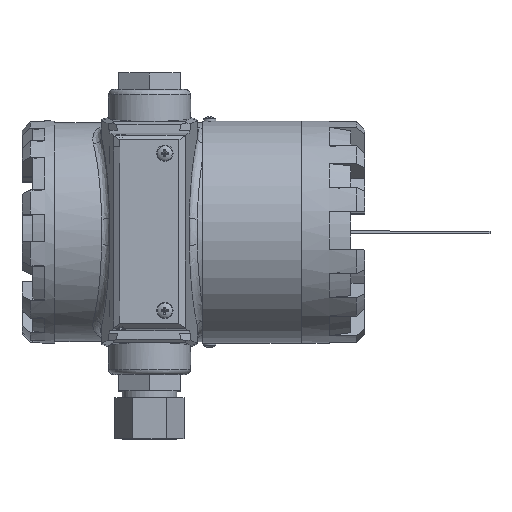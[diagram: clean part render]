
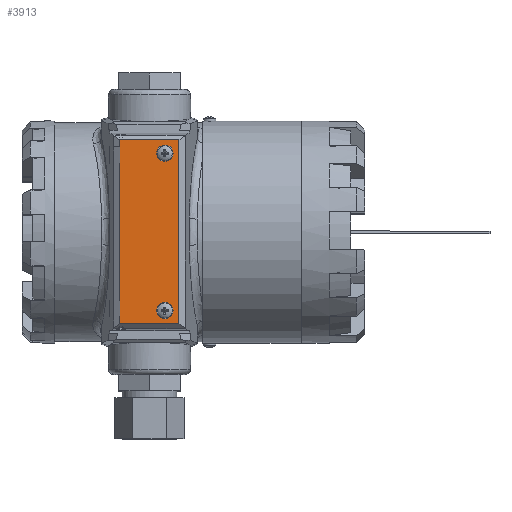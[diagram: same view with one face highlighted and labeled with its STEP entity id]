
A CAD part, top view. The second image highlights one B-rep face of the part: STEP entity #3913.
In plain terms, the highlighted planar face has unit normal (0, 0, 1).
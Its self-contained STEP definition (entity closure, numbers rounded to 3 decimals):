
#3913=ADVANCED_FACE('',(#11969,#11971,#11973),#11975,.T.);
#11969=FACE_BOUND('',#11970,.T.);
#11970=EDGE_LOOP('',(#19853,#19854,#19855,#19856,#19857,#19858,#19859,#19860,#19861,
#19862,#19863,#19864));
#11971=FACE_BOUND('',#11972,.T.);
#11972=EDGE_LOOP('',(#19865));
#11973=FACE_BOUND('',#11974,.T.);
#11974=EDGE_LOOP('',(#19866));
#11975=PLANE('',#11976);
#11976=AXIS2_PLACEMENT_3D('',#11977,#11978,#11979);
#11977=CARTESIAN_POINT('',(0.,0.,130.182));
#11978=DIRECTION('',(0.,0.,1.));
#11979=DIRECTION('',(-1.,0.,0.));
#19853=ORIENTED_EDGE('',*,*,#23496,.T.);
#19854=ORIENTED_EDGE('',*,*,#23846,.T.);
#19855=ORIENTED_EDGE('',*,*,#23493,.F.);
#19856=ORIENTED_EDGE('',*,*,#23847,.T.);
#19857=ORIENTED_EDGE('',*,*,#23490,.T.);
#19858=ORIENTED_EDGE('',*,*,#23848,.T.);
#19859=ORIENTED_EDGE('',*,*,#23487,.F.);
#19860=ORIENTED_EDGE('',*,*,#23480,.T.);
#19861=ORIENTED_EDGE('',*,*,#23823,.T.);
#19862=ORIENTED_EDGE('',*,*,#23500,.T.);
#19863=ORIENTED_EDGE('',*,*,#23498,.F.);
#19864=ORIENTED_EDGE('',*,*,#23849,.T.);
#19865=ORIENTED_EDGE('',*,*,#23850,.T.);
#19866=ORIENTED_EDGE('',*,*,#23851,.T.);
#23480=EDGE_CURVE('',#26635,#26636,#26637,.F.);
#23487=EDGE_CURVE('',#26635,#26645,#26647,.T.);
#23490=EDGE_CURVE('',#26648,#26650,#26652,.F.);
#23493=EDGE_CURVE('',#26655,#26653,#26657,.T.);
#23496=EDGE_CURVE('',#26658,#26660,#26662,.F.);
#23498=EDGE_CURVE('',#26663,#26665,#26666,.T.);
#23500=EDGE_CURVE('',#26668,#26665,#26669,.F.);
#23823=EDGE_CURVE('',#26636,#26668,#27164,.T.);
#23846=EDGE_CURVE('',#26660,#26653,#27198,.T.);
#23847=EDGE_CURVE('',#26655,#26648,#27199,.T.);
#23848=EDGE_CURVE('',#26650,#26645,#27200,.T.);
#23849=EDGE_CURVE('',#26663,#26658,#27201,.T.);
#23850=EDGE_CURVE('',#27202,#27202,#27203,.F.);
#23851=EDGE_CURVE('',#27204,#27204,#27205,.F.);
#26635=VERTEX_POINT('',#37902);
#26636=VERTEX_POINT('',#37903);
#26637=LINE('',#37904,#37905);
#26645=VERTEX_POINT('',#37926);
#26647=LINE('',#37930,#37931);
#26648=VERTEX_POINT('',#37933);
#26650=VERTEX_POINT('',#37937);
#26652=LINE('',#37941,#37942);
#26653=VERTEX_POINT('',#37944);
#26655=VERTEX_POINT('',#37948);
#26657=LINE('',#37952,#37953);
#26658=VERTEX_POINT('',#37955);
#26660=VERTEX_POINT('',#37959);
#26662=LINE('',#37963,#37964);
#26663=VERTEX_POINT('',#37966);
#26665=VERTEX_POINT('',#37970);
#26666=LINE('',#37971,#37972);
#26668=VERTEX_POINT('',#37977);
#26669=LINE('',#37978,#37979);
#27164=LINE('',#39491,#39492);
#27198=LINE('',#39653,#39654);
#27199=LINE('',#39656,#39657);
#27200=LINE('',#39659,#39660);
#27201=LINE('',#39662,#39663);
#27202=VERTEX_POINT('',#39665);
#27203=CIRCLE('',#39666,3.);
#27204=VERTEX_POINT('',#39670);
#27205=CIRCLE('',#39671,3.);
#37902=CARTESIAN_POINT('',(-21.267,-33.589,130.182));
#37903=CARTESIAN_POINT('',(0.267,-33.589,130.182));
#37904=CARTESIAN_POINT('',(0.267,-33.589,130.182));
#37905=VECTOR('',#37906,1.);
#37906=DIRECTION('',(-1.,0.,0.));
#37926=CARTESIAN_POINT('',(-21.267,-31.,130.182));
#37930=CARTESIAN_POINT('',(-21.267,-33.589,130.182));
#37931=VECTOR('',#37932,1.);
#37932=DIRECTION('',(0.,1.,0.));
#37933=CARTESIAN_POINT('',(-21.267,-25.,130.182));
#37937=CARTESIAN_POINT('',(-21.267,-31.,130.182));
#37941=CARTESIAN_POINT('',(-21.267,-31.,130.182));
#37942=VECTOR('',#37943,1.);
#37943=DIRECTION('',(0.,1.,0.));
#37944=CARTESIAN_POINT('',(-21.267,25.,130.182));
#37948=CARTESIAN_POINT('',(-21.267,-25.,130.182));
#37952=CARTESIAN_POINT('',(-21.267,-25.,130.182));
#37953=VECTOR('',#37954,1.);
#37954=DIRECTION('',(0.,1.,0.));
#37955=CARTESIAN_POINT('',(-21.267,31.,130.182));
#37959=CARTESIAN_POINT('',(-21.267,25.,130.182));
#37963=CARTESIAN_POINT('',(-21.267,25.,130.182));
#37964=VECTOR('',#37965,1.);
#37965=DIRECTION('',(0.,1.,0.));
#37966=CARTESIAN_POINT('',(-21.267,31.,130.182));
#37970=CARTESIAN_POINT('',(-21.267,33.589,130.182));
#37971=CARTESIAN_POINT('',(-21.267,31.,130.182));
#37972=VECTOR('',#37973,1.);
#37973=DIRECTION('',(0.,1.,0.));
#37977=CARTESIAN_POINT('',(0.267,33.589,130.182));
#37978=CARTESIAN_POINT('',(-21.267,33.589,130.182));
#37979=VECTOR('',#37980,1.);
#37980=DIRECTION('',(1.,0.,0.));
#39491=CARTESIAN_POINT('',(0.267,-33.589,130.182));
#39492=VECTOR('',#39493,1.);
#39493=DIRECTION('',(0.,1.,0.));
#39653=CARTESIAN_POINT('',(-21.267,25.,130.182));
#39654=VECTOR('',#39655,1.);
#39655=DIRECTION('',(1.,0.,0.));
#39656=CARTESIAN_POINT('',(-21.267,-25.,130.182));
#39657=VECTOR('',#39658,1.);
#39658=DIRECTION('',(-1.,0.,0.));
#39659=CARTESIAN_POINT('',(-21.267,-31.,130.182));
#39660=VECTOR('',#39661,1.);
#39661=DIRECTION('',(1.,0.,0.));
#39662=CARTESIAN_POINT('',(-21.267,31.,130.182));
#39663=VECTOR('',#39664,1.);
#39664=DIRECTION('',(-1.,0.,0.));
#39665=CARTESIAN_POINT('',(-1.88,28.689,130.182));
#39666=AXIS2_PLACEMENT_3D('',#39667,#39668,#39669);
#39667=CARTESIAN_POINT('',(-4.88,28.689,130.182));
#39668=DIRECTION('',(0.,0.,1.));
#39669=DIRECTION('',(1.,0.,0.));
#39670=CARTESIAN_POINT('',(-1.88,-28.689,130.182));
#39671=AXIS2_PLACEMENT_3D('',#39672,#39673,#39674);
#39672=CARTESIAN_POINT('',(-4.88,-28.689,130.182));
#39673=DIRECTION('',(0.,0.,1.));
#39674=DIRECTION('',(1.,0.,0.));
